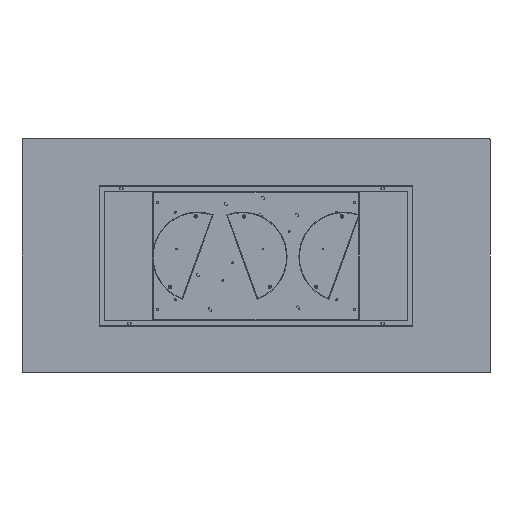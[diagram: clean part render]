
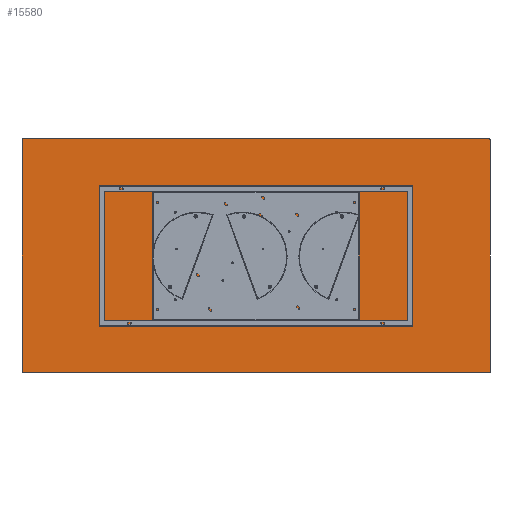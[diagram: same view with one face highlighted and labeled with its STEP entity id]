
A CAD part, front view. The second image highlights one B-rep face of the part: STEP entity #15580.
In plain terms, the highlighted planar face has unit normal (0, -1, 0).
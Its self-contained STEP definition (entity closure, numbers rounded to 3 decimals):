
#521 = CARTESIAN_POINT ( 'NONE',  ( 1200., 0., -600. ) ) ;
#859 = DIRECTION ( 'NONE',  ( 0., 0., 1. ) ) ;
#872 = ORIENTED_EDGE ( 'NONE', *, *, #11064, .T. ) ;
#1063 = CARTESIAN_POINT ( 'NONE',  ( 0., 0., 0. ) ) ;
#1832 = CARTESIAN_POINT ( 'NONE',  ( -1195., 0., 595. ) ) ;
#2214 = VECTOR ( 'NONE', #15314, 1000. ) ;
#2357 = CARTESIAN_POINT ( 'NONE',  ( 1195., 0., -595. ) ) ;
#2479 = FACE_OUTER_BOUND ( 'NONE', #10953, .T. ) ;
#2602 = EDGE_CURVE ( 'NONE', #8570, #4892, #9415, .T. ) ;
#2754 = EDGE_CURVE ( 'NONE', #14896, #14823, #9513, .T. ) ;
#3426 = VERTEX_POINT ( 'NONE', #18594 ) ;
#3888 = ORIENTED_EDGE ( 'NONE', *, *, #4974, .T. ) ;
#3983 = DIRECTION ( 'NONE',  ( 0., 0., 1. ) ) ;
#4100 = CARTESIAN_POINT ( 'NONE',  ( -1200., 0., 600. ) ) ;
#4160 = VECTOR ( 'NONE', #16921, 1000. ) ;
#4324 = VECTOR ( 'NONE', #9051, 1000. ) ;
#4892 = VERTEX_POINT ( 'NONE', #9022 ) ;
#4924 = CARTESIAN_POINT ( 'NONE',  ( 1195., 0., 595. ) ) ;
#4974 = EDGE_CURVE ( 'NONE', #3426, #4892, #7374, .T. ) ;
#5390 = DIRECTION ( 'NONE',  ( 0., 0., 1. ) ) ;
#5689 = CIRCLE ( 'NONE', #14818, 5. ) ;
#5709 = ORIENTED_EDGE ( 'NONE', *, *, #10673, .F. ) ;
#6345 = DIRECTION ( 'NONE',  ( 0., -1., 0. ) ) ;
#6454 = AXIS2_PLACEMENT_3D ( 'NONE', #2357, #9841, #14113 ) ;
#6806 = CARTESIAN_POINT ( 'NONE',  ( -1195., 0., -595. ) ) ;
#6851 = CARTESIAN_POINT ( 'NONE',  ( -1200., 0., -600. ) ) ;
#6948 = CARTESIAN_POINT ( 'NONE',  ( -1195., 0., -600. ) ) ;
#7374 = CIRCLE ( 'NONE', #6454, 5. ) ;
#8258 = PLANE ( 'NONE',  #16602 ) ;
#8263 = CARTESIAN_POINT ( 'NONE',  ( -1200., 0., -600. ) ) ;
#8570 = VERTEX_POINT ( 'NONE', #14385 ) ;
#8990 = CARTESIAN_POINT ( 'NONE',  ( -1195., 0., 600. ) ) ;
#9022 = CARTESIAN_POINT ( 'NONE',  ( 1200., 0., -595. ) ) ;
#9051 = DIRECTION ( 'NONE',  ( 0., 0., -1. ) ) ;
#9415 = LINE ( 'NONE', #521, #4324 ) ;
#9513 = LINE ( 'NONE', #4100, #2214 ) ;
#9599 = LINE ( 'NONE', #8263, #10718 ) ;
#9841 = DIRECTION ( 'NONE',  ( 0., -1., 0. ) ) ;
#9881 = CARTESIAN_POINT ( 'NONE',  ( -1200., 0., -595. ) ) ;
#10322 = VERTEX_POINT ( 'NONE', #6948 ) ;
#10673 = EDGE_CURVE ( 'NONE', #3426, #10322, #9599, .T. ) ;
#10718 = VECTOR ( 'NONE', #13777, 1000. ) ;
#10847 = VERTEX_POINT ( 'NONE', #9881 ) ;
#10953 = EDGE_LOOP ( 'NONE', ( #11552, #872, #12752, #16741, #13391, #17302, #5709, #3888 ) ) ;
#11064 = EDGE_CURVE ( 'NONE', #8570, #14823, #16502, .T. ) ;
#11475 = DIRECTION ( 'NONE',  ( 0., 1., 0. ) ) ;
#11494 = LINE ( 'NONE', #6851, #4160 ) ;
#11552 = ORIENTED_EDGE ( 'NONE', *, *, #2602, .F. ) ;
#12145 = DIRECTION ( 'NONE',  ( 0., -1., 0. ) ) ;
#12525 = EDGE_CURVE ( 'NONE', #14896, #12588, #14423, .T. ) ;
#12588 = VERTEX_POINT ( 'NONE', #16425 ) ;
#12752 = ORIENTED_EDGE ( 'NONE', *, *, #2754, .F. ) ;
#13391 = ORIENTED_EDGE ( 'NONE', *, *, #13640, .F. ) ;
#13640 = EDGE_CURVE ( 'NONE', #10847, #12588, #11494, .T. ) ;
#13777 = DIRECTION ( 'NONE',  ( -1., 0., 0. ) ) ;
#14075 = AXIS2_PLACEMENT_3D ( 'NONE', #4924, #6345, #859 ) ;
#14113 = DIRECTION ( 'NONE',  ( 0., 0., 1. ) ) ;
#14385 = CARTESIAN_POINT ( 'NONE',  ( 1200., 0., 595. ) ) ;
#14423 = CIRCLE ( 'NONE', #17162, 5. ) ;
#14818 = AXIS2_PLACEMENT_3D ( 'NONE', #6806, #18397, #5390 ) ;
#14823 = VERTEX_POINT ( 'NONE', #16207 ) ;
#14896 = VERTEX_POINT ( 'NONE', #8990 ) ;
#15314 = DIRECTION ( 'NONE',  ( 1., 0., 0. ) ) ;
#15580 = ADVANCED_FACE ( 'NONE', ( #2479 ), #8258, .F. ) ;
#16020 = EDGE_CURVE ( 'NONE', #10847, #10322, #5689, .T. ) ;
#16207 = CARTESIAN_POINT ( 'NONE',  ( 1195., 0., 600. ) ) ;
#16425 = CARTESIAN_POINT ( 'NONE',  ( -1200., 0., 595. ) ) ;
#16502 = CIRCLE ( 'NONE', #14075, 5. ) ;
#16602 = AXIS2_PLACEMENT_3D ( 'NONE', #1063, #11475, #3983 ) ;
#16610 = DIRECTION ( 'NONE',  ( 0., 0., 1. ) ) ;
#16741 = ORIENTED_EDGE ( 'NONE', *, *, #12525, .T. ) ;
#16921 = DIRECTION ( 'NONE',  ( 0., 0., 1. ) ) ;
#17162 = AXIS2_PLACEMENT_3D ( 'NONE', #1832, #12145, #16610 ) ;
#17302 = ORIENTED_EDGE ( 'NONE', *, *, #16020, .T. ) ;
#18397 = DIRECTION ( 'NONE',  ( 0., -1., 0. ) ) ;
#18594 = CARTESIAN_POINT ( 'NONE',  ( 1195., 0., -600. ) ) ;
